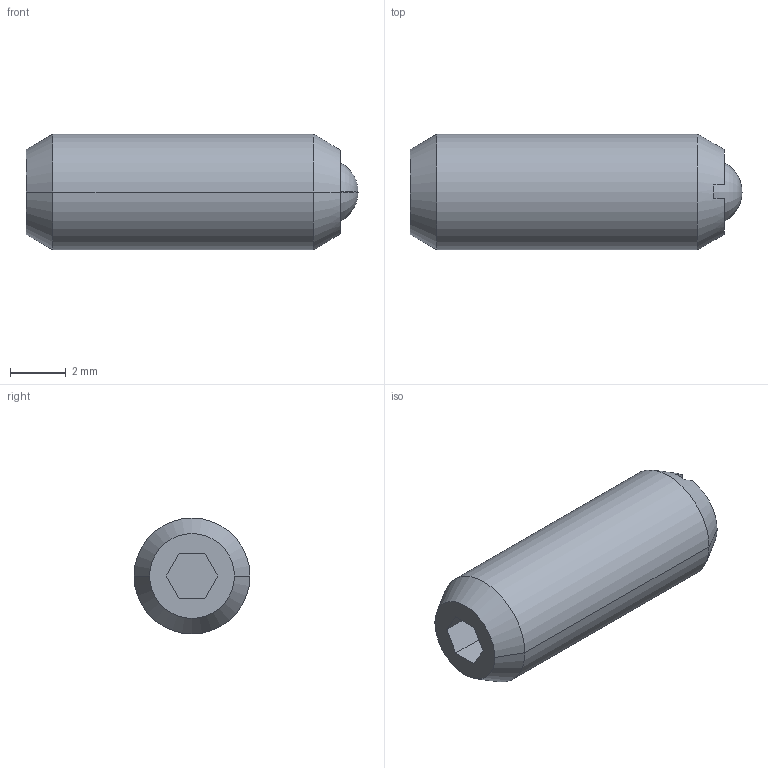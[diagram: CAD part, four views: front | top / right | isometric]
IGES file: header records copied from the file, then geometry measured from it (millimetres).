
Start section:  PTC IGES file: phb50-3d.igs
Global section: file name: phb50-3d.igs; native system: Pro/ENGINEER by Parametric Technology Corporation; preprocessor: 2002350; author: chant; organization: Unknown; date: 061106.084632; units: inch
Bounding box: 11.94 x 4.17 x 4.17 mm (x, y, z)
Surface area: 211 mm2 (no closed solid volume)
Topology: 0 solids, 0 shells, 27 faces, 191 edges, 241 vertices
Faces by surface type: bspline 15, revolution 12
